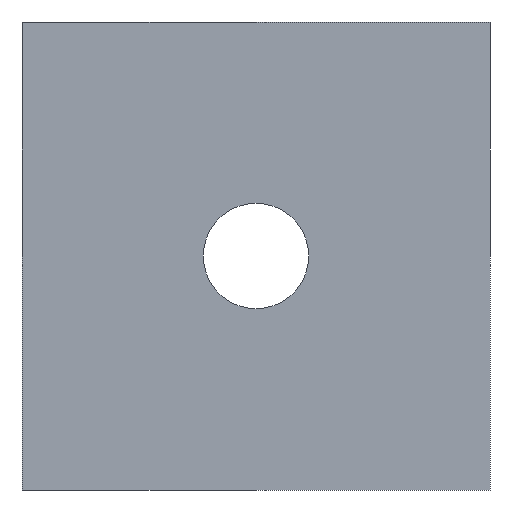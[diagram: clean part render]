
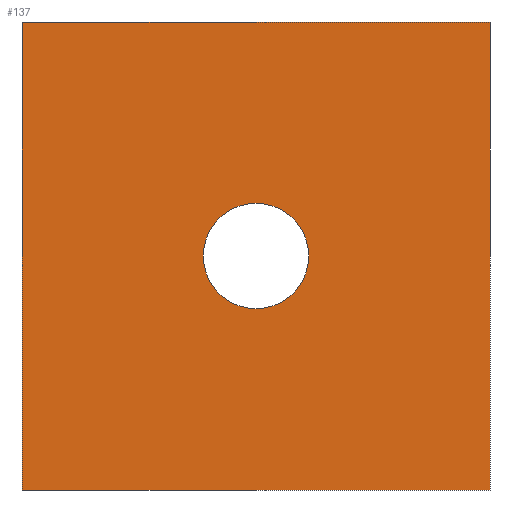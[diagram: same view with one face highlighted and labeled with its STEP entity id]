
A CAD part, front view. The second image highlights one B-rep face of the part: STEP entity #137.
In plain terms, the highlighted planar face has unit normal (0, -1, 0).
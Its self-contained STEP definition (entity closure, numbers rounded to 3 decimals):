
#21 = EDGE_CURVE('',#22,#24,#26,.T.);
#22 = VERTEX_POINT('',#23);
#23 = CARTESIAN_POINT('',(65.,-48.,552.));
#24 = VERTEX_POINT('',#25);
#25 = CARTESIAN_POINT('',(65.,-48.,572.));
#26 = SURFACE_CURVE('',#27,(#31,#43),.PCURVE_S1.);
#27 = LINE('',#28,#29);
#28 = CARTESIAN_POINT('',(65.,-48.,552.));
#29 = VECTOR('',#30,1.);
#30 = DIRECTION('',(0.,0.,1.));
#31 = PCURVE('',#32,#37);
#32 = PLANE('',#33);
#33 = AXIS2_PLACEMENT_3D('',#34,#35,#36);
#34 = CARTESIAN_POINT('',(65.,-48.,552.));
#35 = DIRECTION('',(1.,0.,0.));
#36 = DIRECTION('',(0.,0.,1.));
#37 = DEFINITIONAL_REPRESENTATION('',(#38),#42);
#38 = LINE('',#39,#40);
#39 = CARTESIAN_POINT('',(0.,0.));
#40 = VECTOR('',#41,1.);
#41 = DIRECTION('',(1.,0.));
#42 = ( GEOMETRIC_REPRESENTATION_CONTEXT(2) 
PARAMETRIC_REPRESENTATION_CONTEXT() REPRESENTATION_CONTEXT('2D SPACE',''
  ) );
#43 = PCURVE('',#44,#49);
#44 = PLANE('',#45);
#45 = AXIS2_PLACEMENT_3D('',#46,#47,#48);
#46 = CARTESIAN_POINT('',(65.,-48.,552.));
#47 = DIRECTION('',(0.,1.,0.));
#48 = DIRECTION('',(0.,0.,1.));
#49 = DEFINITIONAL_REPRESENTATION('',(#50),#54);
#50 = LINE('',#51,#52);
#51 = CARTESIAN_POINT('',(0.,0.));
#52 = VECTOR('',#53,1.);
#53 = DIRECTION('',(1.,0.));
#54 = ( GEOMETRIC_REPRESENTATION_CONTEXT(2) 
PARAMETRIC_REPRESENTATION_CONTEXT() REPRESENTATION_CONTEXT('2D SPACE',''
  ) );
#72 = PLANE('',#73);
#73 = AXIS2_PLACEMENT_3D('',#74,#75,#76);
#74 = CARTESIAN_POINT('',(65.,-48.,552.));
#75 = DIRECTION('',(0.,0.,1.));
#76 = DIRECTION('',(1.,0.,0.));
#126 = PLANE('',#127);
#127 = AXIS2_PLACEMENT_3D('',#128,#129,#130);
#128 = CARTESIAN_POINT('',(65.,-48.,572.));
#129 = DIRECTION('',(0.,0.,1.));
#130 = DIRECTION('',(1.,0.,0.));
#137 = ADVANCED_FACE('',(#138,#213),#44,.F.);
#138 = FACE_BOUND('',#139,.F.);
#139 = EDGE_LOOP('',(#140,#163,#164,#187));
#140 = ORIENTED_EDGE('',*,*,#141,.F.);
#141 = EDGE_CURVE('',#22,#142,#144,.T.);
#142 = VERTEX_POINT('',#143);
#143 = CARTESIAN_POINT('',(85.,-48.,552.));
#144 = SURFACE_CURVE('',#145,(#149,#156),.PCURVE_S1.);
#145 = LINE('',#146,#147);
#146 = CARTESIAN_POINT('',(65.,-48.,552.));
#147 = VECTOR('',#148,1.);
#148 = DIRECTION('',(1.,0.,0.));
#149 = PCURVE('',#44,#150);
#150 = DEFINITIONAL_REPRESENTATION('',(#151),#155);
#151 = LINE('',#152,#153);
#152 = CARTESIAN_POINT('',(0.,0.));
#153 = VECTOR('',#154,1.);
#154 = DIRECTION('',(0.,1.));
#155 = ( GEOMETRIC_REPRESENTATION_CONTEXT(2) 
PARAMETRIC_REPRESENTATION_CONTEXT() REPRESENTATION_CONTEXT('2D SPACE',''
  ) );
#156 = PCURVE('',#72,#157);
#157 = DEFINITIONAL_REPRESENTATION('',(#158),#162);
#158 = LINE('',#159,#160);
#159 = CARTESIAN_POINT('',(0.,0.));
#160 = VECTOR('',#161,1.);
#161 = DIRECTION('',(1.,0.));
#162 = ( GEOMETRIC_REPRESENTATION_CONTEXT(2) 
PARAMETRIC_REPRESENTATION_CONTEXT() REPRESENTATION_CONTEXT('2D SPACE',''
  ) );
#163 = ORIENTED_EDGE('',*,*,#21,.T.);
#164 = ORIENTED_EDGE('',*,*,#165,.T.);
#165 = EDGE_CURVE('',#24,#166,#168,.T.);
#166 = VERTEX_POINT('',#167);
#167 = CARTESIAN_POINT('',(85.,-48.,572.));
#168 = SURFACE_CURVE('',#169,(#173,#180),.PCURVE_S1.);
#169 = LINE('',#170,#171);
#170 = CARTESIAN_POINT('',(65.,-48.,572.));
#171 = VECTOR('',#172,1.);
#172 = DIRECTION('',(1.,0.,0.));
#173 = PCURVE('',#44,#174);
#174 = DEFINITIONAL_REPRESENTATION('',(#175),#179);
#175 = LINE('',#176,#177);
#176 = CARTESIAN_POINT('',(20.,0.));
#177 = VECTOR('',#178,1.);
#178 = DIRECTION('',(0.,1.));
#179 = ( GEOMETRIC_REPRESENTATION_CONTEXT(2) 
PARAMETRIC_REPRESENTATION_CONTEXT() REPRESENTATION_CONTEXT('2D SPACE',''
  ) );
#180 = PCURVE('',#126,#181);
#181 = DEFINITIONAL_REPRESENTATION('',(#182),#186);
#182 = LINE('',#183,#184);
#183 = CARTESIAN_POINT('',(0.,0.));
#184 = VECTOR('',#185,1.);
#185 = DIRECTION('',(1.,0.));
#186 = ( GEOMETRIC_REPRESENTATION_CONTEXT(2) 
PARAMETRIC_REPRESENTATION_CONTEXT() REPRESENTATION_CONTEXT('2D SPACE',''
  ) );
#187 = ORIENTED_EDGE('',*,*,#188,.F.);
#188 = EDGE_CURVE('',#142,#166,#189,.T.);
#189 = SURFACE_CURVE('',#190,(#194,#201),.PCURVE_S1.);
#190 = LINE('',#191,#192);
#191 = CARTESIAN_POINT('',(85.,-48.,552.));
#192 = VECTOR('',#193,1.);
#193 = DIRECTION('',(0.,0.,1.));
#194 = PCURVE('',#44,#195);
#195 = DEFINITIONAL_REPRESENTATION('',(#196),#200);
#196 = LINE('',#197,#198);
#197 = CARTESIAN_POINT('',(0.,20.));
#198 = VECTOR('',#199,1.);
#199 = DIRECTION('',(1.,0.));
#200 = ( GEOMETRIC_REPRESENTATION_CONTEXT(2) 
PARAMETRIC_REPRESENTATION_CONTEXT() REPRESENTATION_CONTEXT('2D SPACE',''
  ) );
#201 = PCURVE('',#202,#207);
#202 = PLANE('',#203);
#203 = AXIS2_PLACEMENT_3D('',#204,#205,#206);
#204 = CARTESIAN_POINT('',(85.,-48.,552.));
#205 = DIRECTION('',(1.,0.,0.));
#206 = DIRECTION('',(0.,0.,1.));
#207 = DEFINITIONAL_REPRESENTATION('',(#208),#212);
#208 = LINE('',#209,#210);
#209 = CARTESIAN_POINT('',(0.,0.));
#210 = VECTOR('',#211,1.);
#211 = DIRECTION('',(1.,0.));
#212 = ( GEOMETRIC_REPRESENTATION_CONTEXT(2) 
PARAMETRIC_REPRESENTATION_CONTEXT() REPRESENTATION_CONTEXT('2D SPACE',''
  ) );
#213 = FACE_BOUND('',#214,.F.);
#214 = EDGE_LOOP('',(#215));
#215 = ORIENTED_EDGE('',*,*,#216,.F.);
#216 = EDGE_CURVE('',#217,#217,#219,.T.);
#217 = VERTEX_POINT('',#218);
#218 = CARTESIAN_POINT('',(75.,-48.,564.25));
#219 = SURFACE_CURVE('',#220,(#225,#232),.PCURVE_S1.);
#220 = CIRCLE('',#221,2.25);
#221 = AXIS2_PLACEMENT_3D('',#222,#223,#224);
#222 = CARTESIAN_POINT('',(75.,-48.,562.));
#223 = DIRECTION('',(0.,1.,0.));
#224 = DIRECTION('',(0.,-0.,1.));
#225 = PCURVE('',#44,#226);
#226 = DEFINITIONAL_REPRESENTATION('',(#227),#231);
#227 = CIRCLE('',#228,2.25);
#228 = AXIS2_PLACEMENT_2D('',#229,#230);
#229 = CARTESIAN_POINT('',(10.,10.));
#230 = DIRECTION('',(1.,0.));
#231 = ( GEOMETRIC_REPRESENTATION_CONTEXT(2) 
PARAMETRIC_REPRESENTATION_CONTEXT() REPRESENTATION_CONTEXT('2D SPACE',''
  ) );
#232 = PCURVE('',#233,#238);
#233 = CYLINDRICAL_SURFACE('',#234,2.25);
#234 = AXIS2_PLACEMENT_3D('',#235,#236,#237);
#235 = CARTESIAN_POINT('',(75.,-48.,562.));
#236 = DIRECTION('',(0.,1.,0.));
#237 = DIRECTION('',(0.,-0.,1.));
#238 = DEFINITIONAL_REPRESENTATION('',(#239),#243);
#239 = LINE('',#240,#241);
#240 = CARTESIAN_POINT('',(0.,0.));
#241 = VECTOR('',#242,1.);
#242 = DIRECTION('',(1.,0.));
#243 = ( GEOMETRIC_REPRESENTATION_CONTEXT(2) 
PARAMETRIC_REPRESENTATION_CONTEXT() REPRESENTATION_CONTEXT('2D SPACE',''
  ) );
